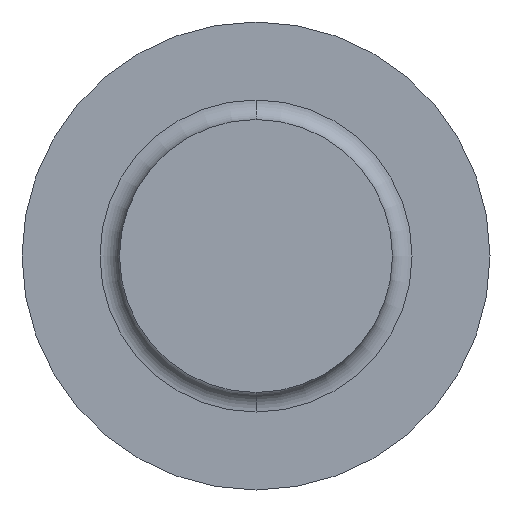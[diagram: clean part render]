
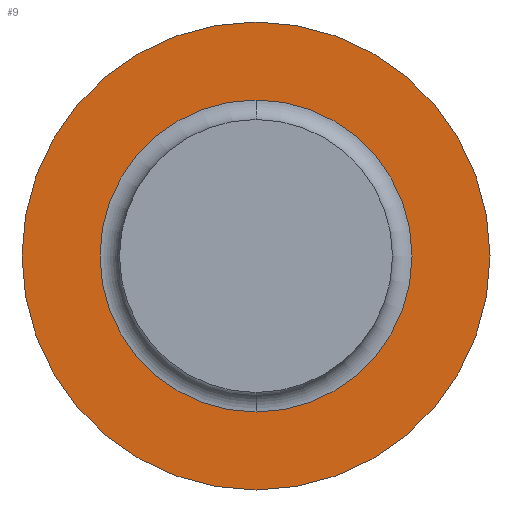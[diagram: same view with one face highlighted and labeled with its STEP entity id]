
A CAD part, front view. The second image highlights one B-rep face of the part: STEP entity #9.
In plain terms, the highlighted planar face has unit normal (0, -1, 0).
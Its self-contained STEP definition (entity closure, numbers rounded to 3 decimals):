
#4 = EDGE_LOOP ( 'NONE', ( #6, #15 ) ) ;
#6 = ORIENTED_EDGE ( 'NONE', *, *, #48, .F. ) ;
#7 = ORIENTED_EDGE ( 'NONE', *, *, #10, .T. ) ;
#9 = ADVANCED_FACE ( 'NONE', ( #87, #125 ), #124, .F. ) ;
#10 = EDGE_CURVE ( 'NONE', #57, #55, #92, .T. ) ;
#12 = ORIENTED_EDGE ( 'NONE', *, *, #58, .T. ) ;
#13 = EDGE_CURVE ( 'NONE', #36, #35, #72, .T. ) ;
#14 = EDGE_LOOP ( 'NONE', ( #7, #12 ) ) ;
#15 = ORIENTED_EDGE ( 'NONE', *, *, #13, .F. ) ;
#35 = VERTEX_POINT ( 'NONE', #136 ) ;
#36 = VERTEX_POINT ( 'NONE', #119 ) ;
#48 = EDGE_CURVE ( 'NONE', #35, #36, #101, .T. ) ;
#55 = VERTEX_POINT ( 'NONE', #161 ) ;
#57 = VERTEX_POINT ( 'NONE', #195 ) ;
#58 = EDGE_CURVE ( 'NONE', #55, #57, #188, .T. ) ;
#72 = CIRCLE ( 'NONE', #112, 6. ) ;
#74 = CARTESIAN_POINT ( 'NONE',  ( 0., -5., 0. ) ) ;
#87 = FACE_BOUND ( 'NONE', #14, .T. ) ;
#88 = DIRECTION ( 'NONE',  ( 0., 0., 1. ) ) ;
#89 = DIRECTION ( 'NONE',  ( 0., 1., 0. ) ) ;
#90 = CARTESIAN_POINT ( 'NONE',  ( 0., -5., 0. ) ) ;
#91 = AXIS2_PLACEMENT_3D ( 'NONE', #90, #89, #88 ) ;
#92 = CIRCLE ( 'NONE', #91, 4. ) ;
#101 = CIRCLE ( 'NONE', #157, 6. ) ;
#110 = DIRECTION ( 'NONE',  ( 0., 0., 1. ) ) ;
#111 = DIRECTION ( 'NONE',  ( 0., 1., 0. ) ) ;
#112 = AXIS2_PLACEMENT_3D ( 'NONE', #74, #111, #110 ) ;
#119 = CARTESIAN_POINT ( 'NONE',  ( 0., -5., -6. ) ) ;
#120 = DIRECTION ( 'NONE',  ( 0., 0., 1. ) ) ;
#121 = DIRECTION ( 'NONE',  ( 0., 1., 0. ) ) ;
#122 = CARTESIAN_POINT ( 'NONE',  ( 0., -5., 0. ) ) ;
#123 = AXIS2_PLACEMENT_3D ( 'NONE', #122, #121, #120 ) ;
#124 = PLANE ( 'NONE',  #123 ) ;
#125 = FACE_OUTER_BOUND ( 'NONE', #4, .T. ) ;
#136 = CARTESIAN_POINT ( 'NONE',  ( 0., -5., 6. ) ) ;
#154 = DIRECTION ( 'NONE',  ( 0., 0., 1. ) ) ;
#155 = DIRECTION ( 'NONE',  ( 0., 1., 0. ) ) ;
#156 = CARTESIAN_POINT ( 'NONE',  ( 0., -5., 0. ) ) ;
#157 = AXIS2_PLACEMENT_3D ( 'NONE', #156, #155, #154 ) ;
#161 = CARTESIAN_POINT ( 'NONE',  ( 0., -5., -4. ) ) ;
#185 = DIRECTION ( 'NONE',  ( 0., 1., 0. ) ) ;
#186 = CARTESIAN_POINT ( 'NONE',  ( 0., -5., 0. ) ) ;
#187 = AXIS2_PLACEMENT_3D ( 'NONE', #186, #185, #199 ) ;
#188 = CIRCLE ( 'NONE', #187, 4. ) ;
#195 = CARTESIAN_POINT ( 'NONE',  ( 0., -5., 4. ) ) ;
#199 = DIRECTION ( 'NONE',  ( 0., 0., 1. ) ) ;
